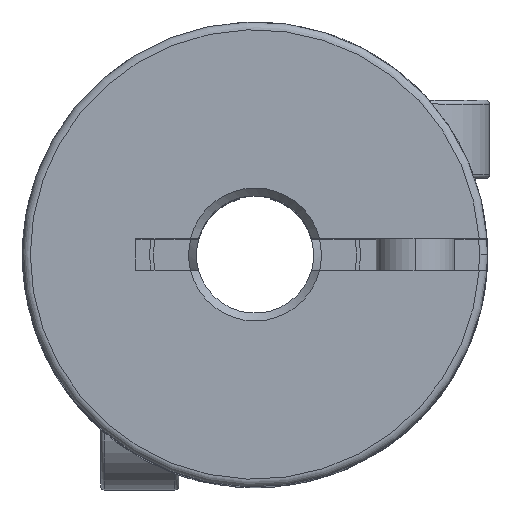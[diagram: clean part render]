
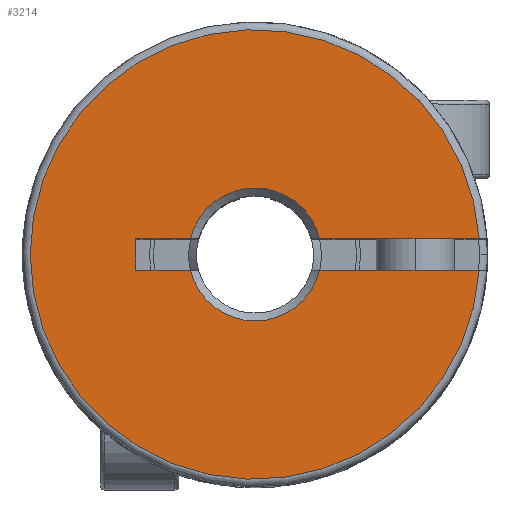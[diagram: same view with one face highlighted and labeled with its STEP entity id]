
A CAD part, top view. The second image highlights one B-rep face of the part: STEP entity #3214.
In plain terms, the highlighted planar face has unit normal (0, 0, 1).
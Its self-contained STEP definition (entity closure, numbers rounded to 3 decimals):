
#3 = DIRECTION ( 'NONE',  ( -1., 0., 0. ) ) ;
#64 = CARTESIAN_POINT ( 'NONE',  ( -1.652, -0.4, 3.35 ) ) ;
#159 = CIRCLE ( 'NONE', #5147, 5.75 ) ;
#194 = ORIENTED_EDGE ( 'NONE', *, *, #5284, .F. ) ;
#210 = LINE ( 'NONE', #3759, #558 ) ;
#252 = CARTESIAN_POINT ( 'NONE',  ( 0., 0., 3.35 ) ) ;
#389 = ORIENTED_EDGE ( 'NONE', *, *, #3262, .T. ) ;
#497 = VERTEX_POINT ( 'NONE', #6112 ) ;
#558 = VECTOR ( 'NONE', #2138, 1000. ) ;
#577 = VERTEX_POINT ( 'NONE', #6734 ) ;
#687 = DIRECTION ( 'NONE',  ( -1., 0., 0. ) ) ;
#1011 = CARTESIAN_POINT ( 'NONE',  ( 5.95, -0.4, 3.35 ) ) ;
#1018 = EDGE_CURVE ( 'NONE', #7128, #497, #5519, .T. ) ;
#1093 = VECTOR ( 'NONE', #7211, 1000. ) ;
#1212 = EDGE_CURVE ( 'NONE', #6150, #497, #2555, .T. ) ;
#1587 = DIRECTION ( 'NONE',  ( 0., 0., -1. ) ) ;
#1684 = PLANE ( 'NONE',  #6946 ) ;
#1760 = ORIENTED_EDGE ( 'NONE', *, *, #6180, .T. ) ;
#1890 = DIRECTION ( 'NONE',  ( 1., 0., 0. ) ) ;
#1958 = DIRECTION ( 'NONE',  ( 0., 0., 1. ) ) ;
#2030 = VERTEX_POINT ( 'NONE', #64 ) ;
#2117 = CARTESIAN_POINT ( 'NONE',  ( 0., 0., 3.35 ) ) ;
#2138 = DIRECTION ( 'NONE',  ( -1., 0., 0. ) ) ;
#2194 = VERTEX_POINT ( 'NONE', #3483 ) ;
#2312 = CARTESIAN_POINT ( 'NONE',  ( 5.95, -0.4, 3.35 ) ) ;
#2342 = EDGE_CURVE ( 'NONE', #7128, #2194, #159, .T. ) ;
#2446 = CIRCLE ( 'NONE', #7005, 1.7 ) ;
#2555 = CIRCLE ( 'NONE', #2732, 1.7 ) ;
#2580 = CARTESIAN_POINT ( 'NONE',  ( 1.652, -0.4, 3.35 ) ) ;
#2732 = AXIS2_PLACEMENT_3D ( 'NONE', #3093, #6431, #3633 ) ;
#2790 = LINE ( 'NONE', #2312, #6915 ) ;
#2822 = DIRECTION ( 'NONE',  ( 1., 0., 0. ) ) ;
#3053 = CARTESIAN_POINT ( 'NONE',  ( 5.736, 0.4, 3.35 ) ) ;
#3093 = CARTESIAN_POINT ( 'NONE',  ( 0., 0., 3.35 ) ) ;
#3156 = ORIENTED_EDGE ( 'NONE', *, *, #2342, .T. ) ;
#3214 = ADVANCED_FACE ( 'NONE', ( #6465 ), #1684, .T. ) ;
#3262 = EDGE_CURVE ( 'NONE', #2030, #577, #2790, .T. ) ;
#3318 = VECTOR ( 'NONE', #3, 1000. ) ;
#3321 = CARTESIAN_POINT ( 'NONE',  ( 0., 0., 3.35 ) ) ;
#3483 = CARTESIAN_POINT ( 'NONE',  ( 5.736, -0.4, 3.35 ) ) ;
#3558 = CARTESIAN_POINT ( 'NONE',  ( -3.05, -0.4, 3.35 ) ) ;
#3612 = EDGE_LOOP ( 'NONE', ( #3742, #3156, #5440, #1760, #389, #4436, #194, #5239 ) ) ;
#3631 = CARTESIAN_POINT ( 'NONE',  ( -3.05, 0.4, 3.35 ) ) ;
#3633 = DIRECTION ( 'NONE',  ( 1., 0., 0. ) ) ;
#3742 = ORIENTED_EDGE ( 'NONE', *, *, #1018, .F. ) ;
#3759 = CARTESIAN_POINT ( 'NONE',  ( 5.95, 0.4, 3.35 ) ) ;
#4317 = LINE ( 'NONE', #3558, #6602 ) ;
#4436 = ORIENTED_EDGE ( 'NONE', *, *, #7049, .T. ) ;
#4514 = CARTESIAN_POINT ( 'NONE',  ( 5.95, 0.4, 3.35 ) ) ;
#4677 = VERTEX_POINT ( 'NONE', #3631 ) ;
#4938 = DIRECTION ( 'NONE',  ( 1., 0., 0. ) ) ;
#5147 = AXIS2_PLACEMENT_3D ( 'NONE', #252, #1958, #1890 ) ;
#5196 = DIRECTION ( 'NONE',  ( 0., 1., 0. ) ) ;
#5239 = ORIENTED_EDGE ( 'NONE', *, *, #1212, .T. ) ;
#5284 = EDGE_CURVE ( 'NONE', #6150, #4677, #210, .T. ) ;
#5440 = ORIENTED_EDGE ( 'NONE', *, *, #6169, .T. ) ;
#5519 = LINE ( 'NONE', #4514, #3318 ) ;
#5520 = CARTESIAN_POINT ( 'NONE',  ( -1.652, 0.4, 3.35 ) ) ;
#6112 = CARTESIAN_POINT ( 'NONE',  ( 1.652, 0.4, 3.35 ) ) ;
#6150 = VERTEX_POINT ( 'NONE', #5520 ) ;
#6169 = EDGE_CURVE ( 'NONE', #2194, #6321, #7251, .T. ) ;
#6180 = EDGE_CURVE ( 'NONE', #6321, #2030, #2446, .T. ) ;
#6321 = VERTEX_POINT ( 'NONE', #2580 ) ;
#6431 = DIRECTION ( 'NONE',  ( 0., 0., -1. ) ) ;
#6465 = FACE_OUTER_BOUND ( 'NONE', #3612, .T. ) ;
#6602 = VECTOR ( 'NONE', #5196, 1000. ) ;
#6734 = CARTESIAN_POINT ( 'NONE',  ( -3.05, -0.4, 3.35 ) ) ;
#6915 = VECTOR ( 'NONE', #687, 1000. ) ;
#6946 = AXIS2_PLACEMENT_3D ( 'NONE', #3321, #7248, #2822 ) ;
#7005 = AXIS2_PLACEMENT_3D ( 'NONE', #2117, #1587, #4938 ) ;
#7049 = EDGE_CURVE ( 'NONE', #577, #4677, #4317, .T. ) ;
#7128 = VERTEX_POINT ( 'NONE', #3053 ) ;
#7211 = DIRECTION ( 'NONE',  ( -1., 0., 0. ) ) ;
#7248 = DIRECTION ( 'NONE',  ( 0., 0., 1. ) ) ;
#7251 = LINE ( 'NONE', #1011, #1093 ) ;
